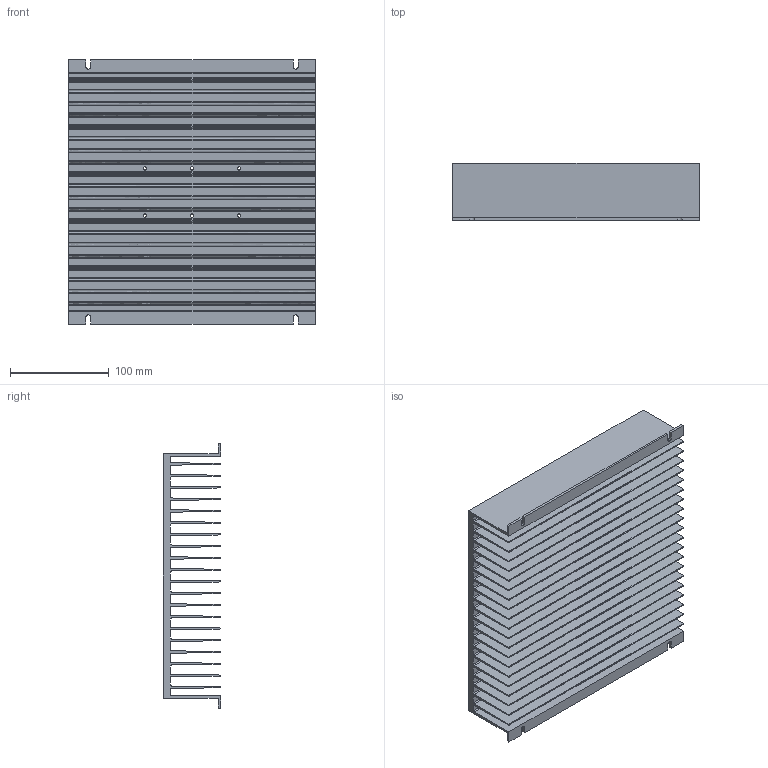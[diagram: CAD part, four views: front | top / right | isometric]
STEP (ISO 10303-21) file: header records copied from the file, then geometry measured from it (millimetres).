
FILE_DESCRIPTION((''),'2;1');
FILE_NAME('SSRHP02','2017-08-30T',('SESA108399'),('Schneider-Electric'),'PRO/ENGINEER BY PARAMETRIC TECHNOLOGY CORPORATION, 2015440','PRO/ENGINEER BY PARAMETRIC TECHNOLOGY CORPORATION, 2015440','');
FILE_SCHEMA(('CONFIG_CONTROL_DESIGN'));
Length unit declared in the file: millimetre
Products named in the file (1): SSRHP02
Bounding box: 250 x 57.9 x 267.7 mm (x, y, z)
Surface area: 690103.2 mm2 (no closed solid volume)
Topology: 0 solids, 0 shells, 176 faces, 1036 edges, 1036 vertices
Faces by surface type: bspline 176
Entity records: 16087 total; most frequent: CARTESIAN_POINT 6574, DIRECTION 1526, TRIMMED_CURVE 1370, VECTOR 1214, LINE 1214, DEFINITIONAL_REPRESENTATION 1036, PCURVE 1036, COMPOSITE_CURVE_SEGMENT 1036
